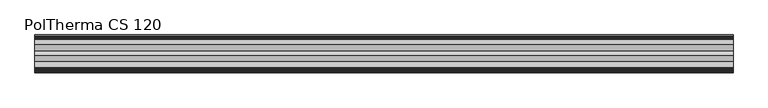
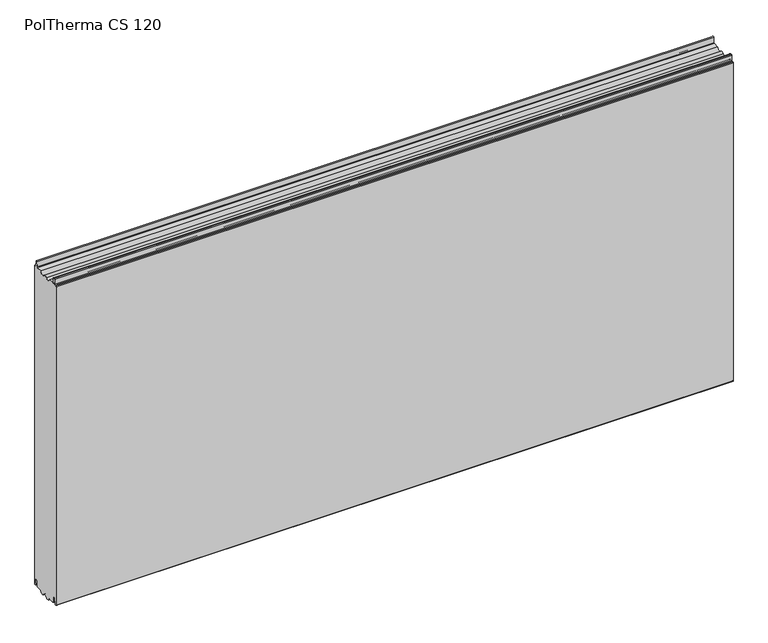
"""IFC4 building model written with IfcOpenShell, lengths in millimetres: plate geometry, Europanels_Poltherma CS_Hz : PolTherma CS 120."""

from ifc_helpers import new_model, si_unit, point, frame, frame_2d, origin, place, context, project, spatial, polyline, circle_curve, trimmed, segment, composite_curve, outline, extrude, source, transform, mapped, element, save


def poltherma_cs_120_e44c0f6b(model_context):
    return source(origin(), model_context, "Body", "SweptSolid", [
        extrude(outline(composite_curve([segment(polyline([(-60.0, 3.4988953), (-60.0, 1096.5011047)]), True, "CONTINUOUS"), segment(trimmed(circle_curve(frame_2d((-58.0, 1096.5011047)), 2.0), [point((-60.0, 1096.5011047))], [point((-58.0, 1098.5011047))], False, "CARTESIAN"), True, "CONTINUOUS"), segment(polyline([(-58.0, 1098.5011047), (-54.244573, 1098.5011047)]), True, "CONTINUOUS"), segment(trimmed(circle_curve(frame_2d((-54.244573, 1100.5011047)), 2.0), [point((-54.244573, 1098.5011047))], [point((-52.2483736, 1100.3778643))], True, "CARTESIAN"), True, "CONTINUOUS"), segment(polyline([(-52.2483736, 1100.3778643), (-51.1836192, 1117.624345)]), True, "CONTINUOUS"), segment(trimmed(circle_curve(frame_2d((-49.1874198, 1117.5011047)), 2.0), [point((-51.1836192, 1117.624345))], [point((-49.1874198, 1119.5011047))], False, "CARTESIAN"), True, "CONTINUOUS"), segment(polyline([(-49.1874198, 1119.5011047), (-46.4480373, 1119.5011047)]), True, "CONTINUOUS"), segment(trimmed(circle_curve(frame_2d((-46.4480373, 1117.5011047)), 2.0), [point((-46.4480373, 1119.5011047))], [point((-44.4498501, 1117.5862394))], False, "CARTESIAN"), True, "CONTINUOUS"), segment(polyline([(-44.4498501, 1117.5862394), (-43.7101357, 1100.2244834)]), True, "CONTINUOUS"), segment(trimmed(circle_curve(frame_2d((-41.9117672, 1100.3011047)), 1.8), [point((-43.7101357, 1100.2244834))], [point((-41.9117672, 1098.5011047))], True, "CARTESIAN"), True, "CONTINUOUS"), segment(polyline([(-41.9117672, 1098.5011047), (-22.9234285, 1098.5011047)]), True, "CONTINUOUS"), segment(trimmed(circle_curve(frame_2d((-12.3, 1101.354658)), 11.0), [point((-22.9234285, 1098.5011047))], [point((-4.05, 1094.0788419))], True, "CARTESIAN"), True, "CONTINUOUS"), segment(trimmed(circle_curve(frame_2d((2.7, 1088.1259015)), 9.0), [point((-4.05, 1094.0788419))], [point((9.45, 1094.0788419))], False, "CARTESIAN"), True, "CONTINUOUS"), segment(trimmed(circle_curve(frame_2d((17.7, 1101.354658)), 11.0), [point((9.45, 1094.0788419))], [point((28.3234285, 1098.5011047))], True, "CARTESIAN"), True, "CONTINUOUS"), segment(polyline([(28.3234285, 1098.5011047), (46.113894, 1098.5011047)]), True, "CONTINUOUS"), segment(trimmed(circle_curve(frame_2d((46.113894, 1100.5011047)), 2.0), [point((46.113894, 1098.5011047))], [point((48.1120505, 1100.4152514))], True, "CARTESIAN"), True, "CONTINUOUS"), segment(polyline([(48.1120505, 1100.4152514), (48.8434291, 1117.437418)]), True, "CONTINUOUS"), segment(trimmed(circle_curve(frame_2d((51.0191836, 1117.343934)), 2.1777619), [point((48.8434291, 1117.437418))], [point((53.1927202, 1117.4795275))], False, "CARTESIAN"), True, "CONTINUOUS"), segment(polyline([(53.1927202, 1117.4795275), (54.2596673, 1100.3765791)]), True, "CONTINUOUS"), segment(trimmed(circle_curve(frame_2d((56.2557869, 1100.5011047)), 2.0), [point((54.2596673, 1100.3765791))], [point((56.2557869, 1098.5011047))], True, "CARTESIAN"), True, "CONTINUOUS"), segment(polyline([(56.2557869, 1098.5011047), (58.0, 1098.5011047)]), True, "CONTINUOUS"), segment(trimmed(circle_curve(frame_2d((58.0, 1096.5011047)), 2.0), [point((58.0, 1098.5011047))], [point((60.0, 1096.5011047))], False, "CARTESIAN"), True, "CONTINUOUS"), segment(polyline([(60.0, 1096.5011047), (60.0, 3.8623872)]), True, "CONTINUOUS"), segment(trimmed(circle_curve(frame_2d((57.6319739, 3.8623872)), 2.3680261), [point((60.0, 3.8623872))], [point((55.2674058, 3.7344618))], False, "CARTESIAN"), True, "CONTINUOUS"), segment(polyline([(55.2674058, 3.7344618), (54.3293468, 21.0735079)]), True, "CONTINUOUS"), segment(trimmed(circle_curve(frame_2d((51.0496929, 20.8960755)), 3.28445), [point((54.3293468, 21.0735079))], [point((47.7706872, 21.085108))], True, "CARTESIAN"), True, "CONTINUOUS"), segment(polyline([(47.7706872, 21.085108), (46.7366349, 3.1481762)]), True, "CONTINUOUS"), segment(trimmed(circle_curve(frame_2d((44.9895357, 3.2488953)), 1.75), [point((46.7366349, 3.1481762))], [point((44.9895357, 1.4988953))], False, "CARTESIAN"), True, "CONTINUOUS"), segment(polyline([(44.9895357, 1.4988953), (27.5267156, 1.4988953)]), True, "CONTINUOUS"), segment(trimmed(circle_curve(frame_2d((17.7, 3.3524487)), 10.0), [point((27.5267156, 1.4988953))], [point((10.2, -3.2619295))], False, "CARTESIAN"), True, "CONTINUOUS"), segment(trimmed(circle_curve(frame_2d((2.7, -9.8763078)), 10.0), [point((10.2, -3.2619295))], [point((-4.8, -3.2619295))], True, "CARTESIAN"), True, "CONTINUOUS"), segment(trimmed(circle_curve(frame_2d((-12.3, 3.3524487)), 10.0), [point((-4.8, -3.2619295))], [point((-22.1267156, 1.4988953))], False, "CARTESIAN"), True, "CONTINUOUS"), segment(polyline([(-22.1267156, 1.4988953), (-40.5507777, 1.4988953)]), True, "CONTINUOUS"), segment(trimmed(circle_curve(frame_2d((-40.5507777, 3.2988953)), 1.8), [point((-40.5507777, 1.4988953))], [point((-42.3477941, 3.1952985))], False, "CARTESIAN"), True, "CONTINUOUS"), segment(polyline([(-42.3477941, 3.1952985), (-43.3842966, 21.1747334)]), True, "CONTINUOUS"), segment(trimmed(circle_curve(frame_2d((-46.3793238, 21.0020721)), 3.0), [point((-43.3842966, 21.1747334))], [point((-46.3793238, 24.0020721))], True, "CARTESIAN"), True, "CONTINUOUS"), segment(polyline([(-46.3793238, 24.0020721), (-49.3209015, 24.0020721)]), True, "CONTINUOUS"), segment(trimmed(circle_curve(frame_2d((-49.3209015, 21.0020721)), 3.0), [point((-49.3209015, 24.0020721))], [point((-52.3165207, 21.1641379))], True, "CARTESIAN"), True, "CONTINUOUS"), segment(polyline([(-52.3165207, 21.1641379), (-53.2780726, 3.3908514)]), True, "CONTINUOUS"), segment(trimmed(circle_curve(frame_2d((-55.2751521, 3.4988953)), 2.0), [point((-53.2780726, 3.3908514))], [point((-55.2751521, 1.4988953))], False, "CARTESIAN"), True, "CONTINUOUS"), segment(polyline([(-55.2751521, 1.4988953), (-58.0, 1.4988953)]), True, "CONTINUOUS"), segment(trimmed(circle_curve(frame_2d((-58.0, 3.4988953)), 2.0), [point((-58.0, 1.4988953))], [point((-60.0, 3.4988953))], False, "CARTESIAN"), True, "CONTINUOUS")], self_intersect=False)), frame((-1100.0, 0.0, 0.0), z_axis=(1.0, 0.0, 0.0), x_axis=(0.0, 1.0, 0.0)), (0.0, 0.0, 1.0), 2200.0),
    ])


if __name__ == "__main__":
    model = new_model("IFC4")
    model_context = context("Model", 3, world=origin())
    ifc_project = project(units=[si_unit("LENGTHUNIT", "METRE", prefix="MILLI")], contexts=[model_context])
    site = spatial("IfcSite", under=ifc_project)
    building = spatial("IfcBuilding", under=site)
    placement = place(None, origin())
    poltherma_cs_120_shape = poltherma_cs_120_e44c0f6b(model_context)
    element("IfcPlate", 1, ObjectType="Europanels_Poltherma CS_Hz : PolTherma CS 120", at=placement, inside=building, context=model_context, shape_type="MappedRepresentation", body=[
        mapped(poltherma_cs_120_shape, transform((0.0, 0.0, 0.0), x_axis=(1.0, 0.0, 0.0), y_axis=(0.0, 1.0, 0.0), z_axis=(0.0, 0.0, 1.0))),
    ])
    save(model, "model.ifc")
